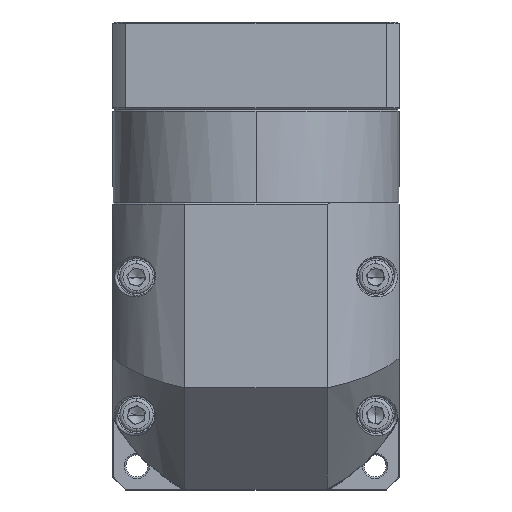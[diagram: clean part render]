
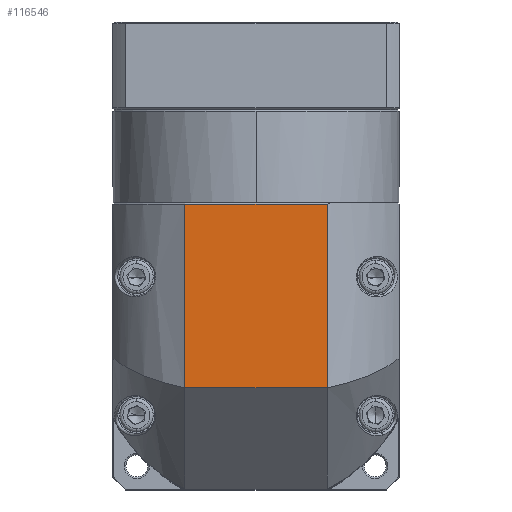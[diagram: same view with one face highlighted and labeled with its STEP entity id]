
A CAD part, top view. The second image highlights one B-rep face of the part: STEP entity #116546.
In plain terms, the highlighted planar face has unit normal (0, 0, 1).
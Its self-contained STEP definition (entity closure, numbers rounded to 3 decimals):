
#4336 = PLANE ( 'NONE',  #98122 ) ;
#8426 = ORIENTED_EDGE ( 'NONE', *, *, #114809, .T. ) ;
#10923 = CARTESIAN_POINT ( 'NONE',  ( -56.244, -2.521, 63.278 ) ) ;
#13937 = EDGE_LOOP ( 'NONE', ( #111423, #86424, #14470, #8426 ) ) ;
#14470 = ORIENTED_EDGE ( 'NONE', *, *, #79338, .F. ) ;
#16676 = VERTEX_POINT ( 'NONE', #28627 ) ;
#17309 = FACE_OUTER_BOUND ( 'NONE', #13937, .T. ) ;
#19342 = CARTESIAN_POINT ( 'NONE',  ( -77.457, -48.021, 63.278 ) ) ;
#28627 = CARTESIAN_POINT ( 'NONE',  ( -35.03, -2.521, 63.278 ) ) ;
#44616 = EDGE_CURVE ( 'NONE', #55448, #65543, #68190, .T. ) ;
#46150 = CARTESIAN_POINT ( 'NONE',  ( -77.457, -2.521, 63.278 ) ) ;
#47970 = LINE ( 'NONE', #65192, #88196 ) ;
#48658 = VERTEX_POINT ( 'NONE', #117591 ) ;
#51012 = CARTESIAN_POINT ( 'NONE',  ( -56.244, 51.979, 63.278 ) ) ;
#55448 = VERTEX_POINT ( 'NONE', #46150 ) ;
#65043 = DIRECTION ( 'NONE',  ( 0., 1., 0. ) ) ;
#65192 = CARTESIAN_POINT ( 'NONE',  ( -35.03, -48.021, 63.278 ) ) ;
#65543 = VERTEX_POINT ( 'NONE', #104082 ) ;
#68190 = LINE ( 'NONE', #19342, #72966 ) ;
#72317 = VECTOR ( 'NONE', #81581, 1000. ) ;
#72966 = VECTOR ( 'NONE', #92094, 1000. ) ;
#79338 = EDGE_CURVE ( 'NONE', #48658, #16676, #47970, .T. ) ;
#81581 = DIRECTION ( 'NONE',  ( -1., 0., 0. ) ) ;
#82833 = DIRECTION ( 'NONE',  ( -1., 0., 0. ) ) ;
#86424 = ORIENTED_EDGE ( 'NONE', *, *, #104654, .F. ) ;
#86561 = CARTESIAN_POINT ( 'NONE',  ( -56.244, 9.979, 63.278 ) ) ;
#87152 = DIRECTION ( 'NONE',  ( 0., -1., 0. ) ) ;
#88196 = VECTOR ( 'NONE', #87152, 1000. ) ;
#92094 = DIRECTION ( 'NONE',  ( 0., 1., 0. ) ) ;
#98122 = AXIS2_PLACEMENT_3D ( 'NONE', #86561, #105499, #65043 ) ;
#99837 = VECTOR ( 'NONE', #82833, 1000. ) ;
#104082 = CARTESIAN_POINT ( 'NONE',  ( -77.457, 51.979, 63.278 ) ) ;
#104654 = EDGE_CURVE ( 'NONE', #16676, #55448, #127270, .T. ) ;
#105499 = DIRECTION ( 'NONE',  ( 0., 0., 1. ) ) ;
#111423 = ORIENTED_EDGE ( 'NONE', *, *, #44616, .F. ) ;
#114809 = EDGE_CURVE ( 'NONE', #48658, #65543, #128628, .T. ) ;
#116546 = ADVANCED_FACE ( 'NONE', ( #17309 ), #4336, .T. ) ;
#117591 = CARTESIAN_POINT ( 'NONE',  ( -35.03, 51.979, 63.278 ) ) ;
#127270 = LINE ( 'NONE', #10923, #99837 ) ;
#128628 = LINE ( 'NONE', #51012, #72317 ) ;
